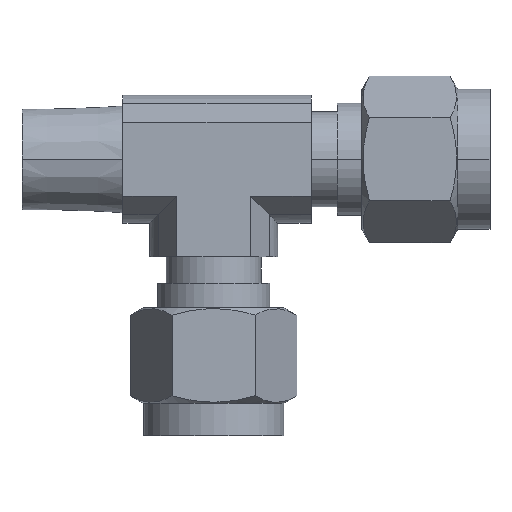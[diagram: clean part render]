
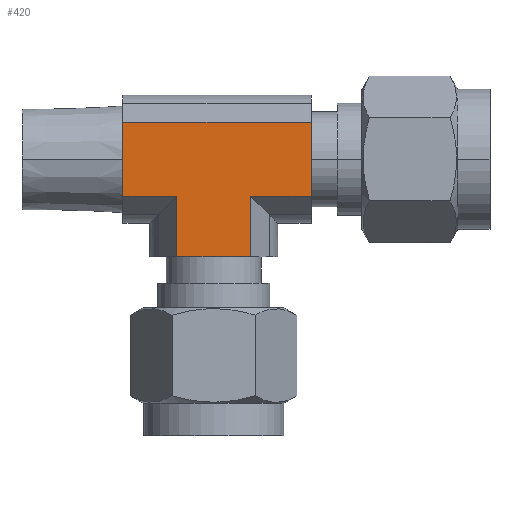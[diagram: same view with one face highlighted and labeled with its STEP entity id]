
A CAD part, top view. The second image highlights one B-rep face of the part: STEP entity #420.
In plain terms, the highlighted planar face has unit normal (0, 0, 1).
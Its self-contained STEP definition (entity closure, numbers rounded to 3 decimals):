
#418 = EDGE_CURVE ( 'NONE', #653, #555, #2302, .T. ) ;
#420 = ADVANCED_FACE ( 'NONE', ( #2298 ), #2297, .F. ) ;
#421 = EDGE_LOOP ( 'NONE', ( #422, #423, #425, #426, #428, #674, #675, #676 ) ) ;
#422 = ORIENTED_EDGE ( 'NONE', *, *, #672, .F. ) ;
#423 = ORIENTED_EDGE ( 'NONE', *, *, #424, .F. ) ;
#424 = EDGE_CURVE ( 'NONE', #516, #697, #2295, .T. ) ;
#425 = ORIENTED_EDGE ( 'NONE', *, *, #515, .F. ) ;
#426 = ORIENTED_EDGE ( 'NONE', *, *, #427, .T. ) ;
#427 = EDGE_CURVE ( 'NONE', #513, #439, #2288, .T. ) ;
#428 = ORIENTED_EDGE ( 'NONE', *, *, #444, .F. ) ;
#439 = VERTEX_POINT ( 'NONE', #2240 ) ;
#444 = EDGE_CURVE ( 'NONE', #656, #439, #2235, .T. ) ;
#513 = VERTEX_POINT ( 'NONE', #1852 ) ;
#515 = EDGE_CURVE ( 'NONE', #513, #516, #1851, .T. ) ;
#516 = VERTEX_POINT ( 'NONE', #1847 ) ;
#552 = VERTEX_POINT ( 'NONE', #1697 ) ;
#554 = EDGE_CURVE ( 'NONE', #552, #555, #1696, .T. ) ;
#555 = VERTEX_POINT ( 'NONE', #1692 ) ;
#653 = VERTEX_POINT ( 'NONE', #1980 ) ;
#655 = EDGE_CURVE ( 'NONE', #653, #656, #1979, .T. ) ;
#656 = VERTEX_POINT ( 'NONE', #1975 ) ;
#672 = EDGE_CURVE ( 'NONE', #697, #552, #2024, .T. ) ;
#674 = ORIENTED_EDGE ( 'NONE', *, *, #655, .F. ) ;
#675 = ORIENTED_EDGE ( 'NONE', *, *, #418, .T. ) ;
#676 = ORIENTED_EDGE ( 'NONE', *, *, #554, .F. ) ;
#697 = VERTEX_POINT ( 'NONE', #2036 ) ;
#1692 = CARTESIAN_POINT ( 'NONE',  ( -9., 3.666, 6.35 ) ) ;
#1693 = DIRECTION ( 'NONE',  ( 0., 1., 0. ) ) ;
#1694 = VECTOR ( 'NONE', #1693, 1000. ) ;
#1695 = CARTESIAN_POINT ( 'NONE',  ( -9., -3.666, 6.35 ) ) ;
#1696 = LINE ( 'NONE', #1695, #1694 ) ;
#1697 = CARTESIAN_POINT ( 'NONE',  ( -9., -3.666, 6.35 ) ) ;
#1847 = CARTESIAN_POINT ( 'NONE',  ( -3.666, -9.67, 6.35 ) ) ;
#1848 = DIRECTION ( 'NONE',  ( -1., 0., 0. ) ) ;
#1849 = VECTOR ( 'NONE', #1848, 1000. ) ;
#1850 = CARTESIAN_POINT ( 'NONE',  ( 3.666, -9.67, 6.35 ) ) ;
#1851 = LINE ( 'NONE', #1850, #1849 ) ;
#1852 = CARTESIAN_POINT ( 'NONE',  ( 3.666, -9.67, 6.35 ) ) ;
#1975 = CARTESIAN_POINT ( 'NONE',  ( 9.67, -3.666, 6.35 ) ) ;
#1976 = DIRECTION ( 'NONE',  ( 0., -1., 0. ) ) ;
#1977 = VECTOR ( 'NONE', #1976, 1000. ) ;
#1978 = CARTESIAN_POINT ( 'NONE',  ( 9.67, 3.666, 6.35 ) ) ;
#1979 = LINE ( 'NONE', #1978, #1977 ) ;
#1980 = CARTESIAN_POINT ( 'NONE',  ( 9.67, 3.666, 6.35 ) ) ;
#2021 = DIRECTION ( 'NONE',  ( -1., 0., 0. ) ) ;
#2022 = VECTOR ( 'NONE', #2021, 1000. ) ;
#2023 = CARTESIAN_POINT ( 'NONE',  ( 9.67, -3.666, 6.35 ) ) ;
#2024 = LINE ( 'NONE', #2023, #2022 ) ;
#2036 = CARTESIAN_POINT ( 'NONE',  ( -3.666, -3.666, 6.35 ) ) ;
#2232 = DIRECTION ( 'NONE',  ( -1., 0., 0. ) ) ;
#2233 = VECTOR ( 'NONE', #2232, 1000. ) ;
#2234 = CARTESIAN_POINT ( 'NONE',  ( 9.67, -3.666, 6.35 ) ) ;
#2235 = LINE ( 'NONE', #2234, #2233 ) ;
#2240 = CARTESIAN_POINT ( 'NONE',  ( 3.666, -3.666, 6.35 ) ) ;
#2285 = DIRECTION ( 'NONE',  ( 0., 1., 0. ) ) ;
#2286 = VECTOR ( 'NONE', #2285, 1000. ) ;
#2287 = CARTESIAN_POINT ( 'NONE',  ( 3.666, -9.67, 6.35 ) ) ;
#2288 = LINE ( 'NONE', #2287, #2286 ) ;
#2289 = DIRECTION ( 'NONE',  ( 0., 1., 0. ) ) ;
#2290 = VECTOR ( 'NONE', #2289, 1000. ) ;
#2291 = CARTESIAN_POINT ( 'NONE',  ( -3.666, -9.67, 6.35 ) ) ;
#2292 = DIRECTION ( 'NONE',  ( 0., 1., 0. ) ) ;
#2293 = DIRECTION ( 'NONE',  ( 0., 0., -1. ) ) ;
#2294 = AXIS2_PLACEMENT_3D ( 'NONE', #2296, #2293, #2292 ) ;
#2295 = LINE ( 'NONE', #2291, #2290 ) ;
#2296 = CARTESIAN_POINT ( 'NONE',  ( 9.67, 3.666, 6.35 ) ) ;
#2297 = PLANE ( 'NONE',  #2294 ) ;
#2298 = FACE_OUTER_BOUND ( 'NONE', #421, .T. ) ;
#2299 = DIRECTION ( 'NONE',  ( -1., 0., 0. ) ) ;
#2300 = VECTOR ( 'NONE', #2299, 1000. ) ;
#2301 = CARTESIAN_POINT ( 'NONE',  ( 9.67, 3.666, 6.35 ) ) ;
#2302 = LINE ( 'NONE', #2301, #2300 ) ;
